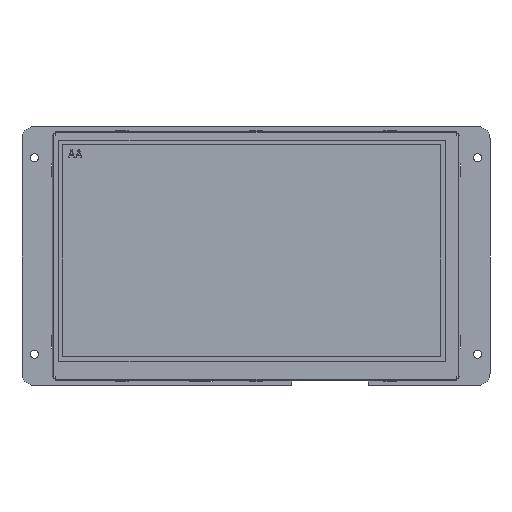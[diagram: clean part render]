
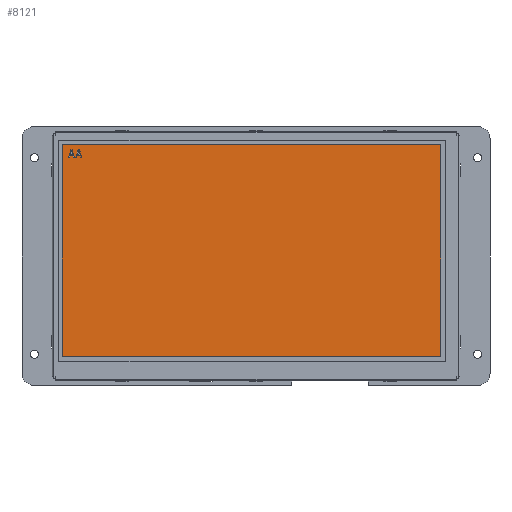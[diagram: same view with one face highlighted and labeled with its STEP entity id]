
A CAD part, front view. The second image highlights one B-rep face of the part: STEP entity #8121.
In plain terms, the highlighted planar face has unit normal (0, -1, 0) as drawn and (0, 1, 0) by its records, which use the part's own axes.
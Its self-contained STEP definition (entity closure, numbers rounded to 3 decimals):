
#7548=DIRECTION('',(0.,0.,1.));
#7549=VECTOR('',#7548,85.92);
#7550=CARTESIAN_POINT('',(-78.95,2.7,-45.2));
#7551=LINE('',#7550,#7549);
#7552=DIRECTION('',(-1.,0.,0.));
#7553=VECTOR('',#7552,154.21);
#7554=CARTESIAN_POINT('',(75.26,2.7,-45.2));
#7555=LINE('',#7554,#7553);
#7556=DIRECTION('',(0.,0.,-1.));
#7557=VECTOR('',#7556,85.92);
#7558=CARTESIAN_POINT('',(75.26,2.7,40.72));
#7559=LINE('',#7558,#7557);
#7560=DIRECTION('',(1.,0.,0.));
#7561=VECTOR('',#7560,154.21);
#7562=CARTESIAN_POINT('',(-78.95,2.7,40.72));
#7563=LINE('',#7562,#7561);
#7564=DIRECTION('',(0.316,0.,0.949));
#7565=VECTOR('',#7564,3.12);
#7566=CARTESIAN_POINT('',(-74.844,2.7,-43.182));
#7567=LINE('',#7566,#7565);
#7568=DIRECTION('',(1.,0.,0.));
#7569=VECTOR('',#7568,0.493);
#7570=CARTESIAN_POINT('',(-75.337,2.7,-43.182));
#7571=LINE('',#7570,#7569);
#7572=DIRECTION('',(0.316,0.,-0.949));
#7573=VECTOR('',#7572,3.12);
#7574=CARTESIAN_POINT('',(-76.324,2.7,-40.222));
#7575=LINE('',#7574,#7573);
#7576=DIRECTION('',(-1.,0.,0.));
#7577=VECTOR('',#7576,0.37);
#7578=CARTESIAN_POINT('',(-75.954,2.7,-40.222));
#7579=LINE('',#7578,#7577);
#7580=DIRECTION('',(-0.31,0.,0.951));
#7581=VECTOR('',#7580,0.795);
#7582=CARTESIAN_POINT('',(-75.707,2.7,-40.977));
#7583=LINE('',#7582,#7581);
#7584=DIRECTION('',(-1.,0.,0.));
#7585=VECTOR('',#7584,1.233);
#7586=CARTESIAN_POINT('',(-74.474,2.7,-40.977));
#7587=LINE('',#7586,#7585);
#7588=DIRECTION('',(-0.31,0.,-0.951));
#7589=VECTOR('',#7588,0.795);
#7590=CARTESIAN_POINT('',(-74.227,2.7,-40.222));
#7591=LINE('',#7590,#7589);
#7592=DIRECTION('',(-1.,0.,0.));
#7593=VECTOR('',#7592,0.37);
#7594=CARTESIAN_POINT('',(-73.857,2.7,-40.222));
#7595=LINE('',#7594,#7593);
#7608=DIRECTION('',(0.316,0.,0.949));
#7609=VECTOR('',#7608,3.12);
#7610=CARTESIAN_POINT('',(-71.884,2.7,-43.182));
#7611=LINE('',#7610,#7609);
#7612=DIRECTION('',(1.,0.,0.));
#7613=VECTOR('',#7612,0.493);
#7614=CARTESIAN_POINT('',(-72.377,2.7,-43.182));
#7615=LINE('',#7614,#7613);
#7616=DIRECTION('',(0.316,0.,-0.949));
#7617=VECTOR('',#7616,3.12);
#7618=CARTESIAN_POINT('',(-73.364,2.7,-40.222));
#7619=LINE('',#7618,#7617);
#7620=DIRECTION('',(-1.,0.,0.));
#7621=VECTOR('',#7620,0.37);
#7622=CARTESIAN_POINT('',(-72.994,2.7,-40.222));
#7623=LINE('',#7622,#7621);
#7624=DIRECTION('',(-0.31,0.,0.951));
#7625=VECTOR('',#7624,0.795);
#7626=CARTESIAN_POINT('',(-72.747,2.7,-40.977));
#7627=LINE('',#7626,#7625);
#7628=DIRECTION('',(-1.,0.,0.));
#7629=VECTOR('',#7628,1.233);
#7630=CARTESIAN_POINT('',(-71.514,2.7,-40.977));
#7631=LINE('',#7630,#7629);
#7632=DIRECTION('',(-0.31,0.,-0.951));
#7633=VECTOR('',#7632,0.795);
#7634=CARTESIAN_POINT('',(-71.267,2.7,-40.222));
#7635=LINE('',#7634,#7633);
#7636=DIRECTION('',(-1.,0.,0.));
#7637=VECTOR('',#7636,0.37);
#7638=CARTESIAN_POINT('',(-70.897,2.7,-40.222));
#7639=LINE('',#7638,#7637);
#7756=CARTESIAN_POINT('',(-78.95,2.7,-45.2));
#7757=CARTESIAN_POINT('',(-78.95,2.7,40.72));
#7758=VERTEX_POINT('',#7756);
#7759=VERTEX_POINT('',#7757);
#7760=CARTESIAN_POINT('',(75.26,2.7,40.72));
#7761=VERTEX_POINT('',#7760);
#7762=CARTESIAN_POINT('',(75.26,2.7,-45.2));
#7763=VERTEX_POINT('',#7762);
#7764=CARTESIAN_POINT('',(-74.844,2.7,-43.182));
#7765=CARTESIAN_POINT('',(-73.857,2.7,-40.222));
#7766=VERTEX_POINT('',#7764);
#7767=VERTEX_POINT('',#7765);
#7768=CARTESIAN_POINT('',(-74.227,2.7,-40.222));
#7769=VERTEX_POINT('',#7768);
#7770=CARTESIAN_POINT('',(-74.474,2.7,-40.977));
#7771=VERTEX_POINT('',#7770);
#7772=CARTESIAN_POINT('',(-75.707,2.7,-40.977));
#7773=VERTEX_POINT('',#7772);
#7774=CARTESIAN_POINT('',(-75.954,2.7,-40.222));
#7775=VERTEX_POINT('',#7774);
#7776=CARTESIAN_POINT('',(-76.324,2.7,-40.222));
#7777=VERTEX_POINT('',#7776);
#7778=CARTESIAN_POINT('',(-75.337,2.7,-43.182));
#7779=VERTEX_POINT('',#7778);
#7786=CARTESIAN_POINT('',(-71.884,2.7,-43.182));
#7787=CARTESIAN_POINT('',(-70.897,2.7,-40.222));
#7788=VERTEX_POINT('',#7786);
#7789=VERTEX_POINT('',#7787);
#7790=CARTESIAN_POINT('',(-71.267,2.7,-40.222));
#7791=VERTEX_POINT('',#7790);
#7792=CARTESIAN_POINT('',(-71.514,2.7,-40.977));
#7793=VERTEX_POINT('',#7792);
#7794=CARTESIAN_POINT('',(-72.747,2.7,-40.977));
#7795=VERTEX_POINT('',#7794);
#7796=CARTESIAN_POINT('',(-72.994,2.7,-40.222));
#7797=VERTEX_POINT('',#7796);
#7798=CARTESIAN_POINT('',(-73.364,2.7,-40.222));
#7799=VERTEX_POINT('',#7798);
#7800=CARTESIAN_POINT('',(-72.377,2.7,-43.182));
#7801=VERTEX_POINT('',#7800);
#8074=CARTESIAN_POINT('',(0.,2.7,0.));
#8075=DIRECTION('',(0.,1.,0.));
#8076=DIRECTION('',(1.,0.,0.));
#8077=AXIS2_PLACEMENT_3D('',#8074,#8075,#8076);
#8078=PLANE('',#8077);
#8079=ORIENTED_EDGE('',*,*,#8026,.F.);
#8080=ORIENTED_EDGE('',*,*,#8041,.F.);
#8081=ORIENTED_EDGE('',*,*,#8055,.F.);
#8082=ORIENTED_EDGE('',*,*,#8068,.F.);
#8083=EDGE_LOOP('',(#8079,#8080,#8081,#8082));
#8084=FACE_OUTER_BOUND('',#8083,.F.);
#8086=ORIENTED_EDGE('',*,*,#8085,.F.);
#8088=ORIENTED_EDGE('',*,*,#8087,.F.);
#8090=ORIENTED_EDGE('',*,*,#8089,.F.);
#8092=ORIENTED_EDGE('',*,*,#8091,.F.);
#8094=ORIENTED_EDGE('',*,*,#8093,.F.);
#8096=ORIENTED_EDGE('',*,*,#8095,.F.);
#8098=ORIENTED_EDGE('',*,*,#8097,.F.);
#8100=ORIENTED_EDGE('',*,*,#8099,.F.);
#8101=EDGE_LOOP('',(#8086,#8088,#8090,#8092,#8094,#8096,#8098,#8100));
#8102=FACE_BOUND('',#8101,.F.);
#8104=ORIENTED_EDGE('',*,*,#8103,.F.);
#8106=ORIENTED_EDGE('',*,*,#8105,.F.);
#8108=ORIENTED_EDGE('',*,*,#8107,.F.);
#8110=ORIENTED_EDGE('',*,*,#8109,.F.);
#8112=ORIENTED_EDGE('',*,*,#8111,.F.);
#8114=ORIENTED_EDGE('',*,*,#8113,.F.);
#8116=ORIENTED_EDGE('',*,*,#8115,.F.);
#8118=ORIENTED_EDGE('',*,*,#8117,.F.);
#8119=EDGE_LOOP('',(#8104,#8106,#8108,#8110,#8112,#8114,#8116,#8118));
#8120=FACE_BOUND('',#8119,.F.);
#8026=EDGE_CURVE('',#7758,#7759,#7551,.T.);
#8041=EDGE_CURVE('',#7763,#7758,#7555,.T.);
#8055=EDGE_CURVE('',#7761,#7763,#7559,.T.);
#8068=EDGE_CURVE('',#7759,#7761,#7563,.T.);
#8085=EDGE_CURVE('',#7766,#7767,#7567,.T.);
#8087=EDGE_CURVE('',#7779,#7766,#7571,.T.);
#8089=EDGE_CURVE('',#7777,#7779,#7575,.T.);
#8091=EDGE_CURVE('',#7775,#7777,#7579,.T.);
#8093=EDGE_CURVE('',#7773,#7775,#7583,.T.);
#8095=EDGE_CURVE('',#7771,#7773,#7587,.T.);
#8097=EDGE_CURVE('',#7769,#7771,#7591,.T.);
#8099=EDGE_CURVE('',#7767,#7769,#7595,.T.);
#8103=EDGE_CURVE('',#7788,#7789,#7611,.T.);
#8105=EDGE_CURVE('',#7801,#7788,#7615,.T.);
#8107=EDGE_CURVE('',#7799,#7801,#7619,.T.);
#8109=EDGE_CURVE('',#7797,#7799,#7623,.T.);
#8111=EDGE_CURVE('',#7795,#7797,#7627,.T.);
#8113=EDGE_CURVE('',#7793,#7795,#7631,.T.);
#8115=EDGE_CURVE('',#7791,#7793,#7635,.T.);
#8117=EDGE_CURVE('',#7789,#7791,#7639,.T.);
#8121=ADVANCED_FACE('',(#8084,#8102,#8120),#8078,.T.);
